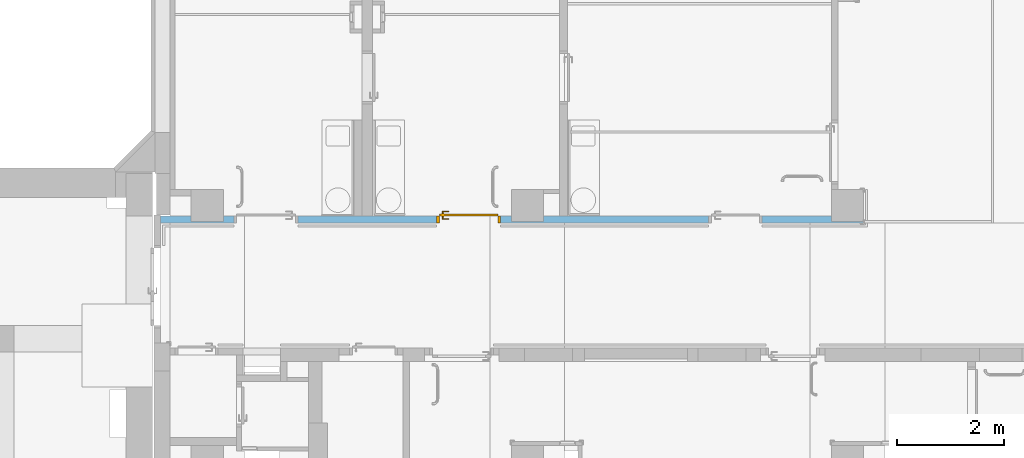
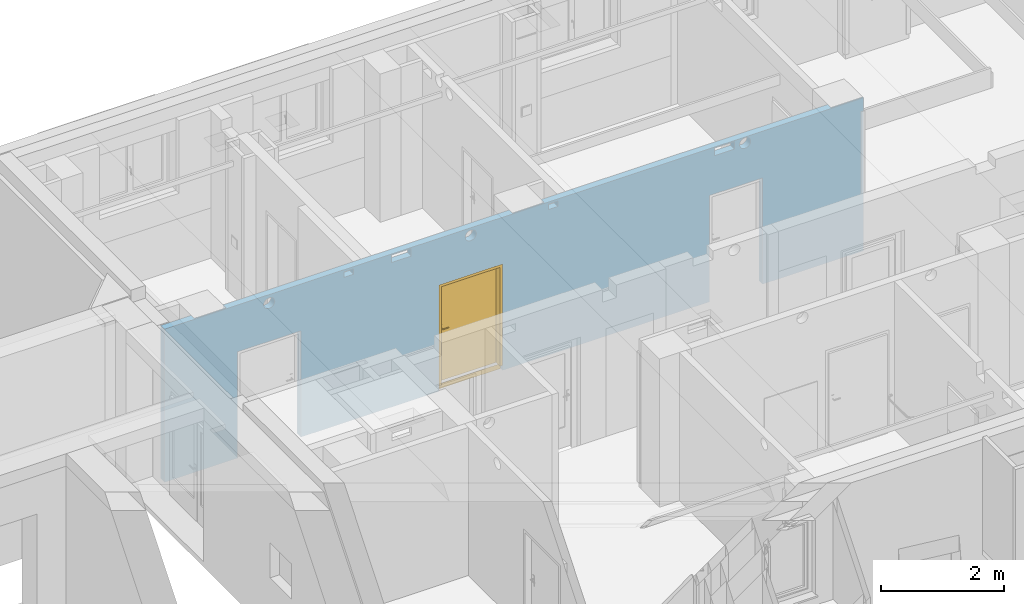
# One storey, part 58 of 84: 1 door, 13 openings, plus 1 element that does not belong to this part.
"""IFC4 building model written with IfcOpenShell, lengths in metres."""

from ifc_helpers import new_model, entity, si_unit, converted_unit, derived_unit, frame, frame_2d, origin, origin_with_axes, place, context, subcontext, project, spatial, polyline, rectangle, outline, extrude, closed_shell, open_shell, surface_model, source, transform, mapped, material, layer, layer_set, layer_usage, type_object, element, fill, save


model = new_model("IFC4")

# Units and contexts
model_context = context("Model", 3, precision=1e-05, world=origin())
body_context = subcontext(model_context, "Body", "Model", "MODEL_VIEW")
ifc_project = project(units=[si_unit("LENGTHUNIT", "METRE"), si_unit("AREAUNIT", "SQUARE_METRE"), si_unit("VOLUMEUNIT", "CUBIC_METRE"), si_unit("MASSUNIT", "GRAM", prefix="KILO"), converted_unit("PLANEANGLEUNIT", "DEGREE", entity("IfcPlaneAngleMeasure", 0.0174532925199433), si_unit("PLANEANGLEUNIT", "RADIAN"), dimensions=[0, 0, 0, 0, 0, 0, 0]), derived_unit("THERMALTRANSMITTANCEUNIT", [(si_unit("POWERUNIT", "WATT"), 1), (si_unit("THERMODYNAMICTEMPERATUREUNIT", "KELVIN"), -1), (si_unit("LENGTHUNIT", "METRE"), -2)]), derived_unit("VOLUMETRICFLOWRATEUNIT", [(si_unit("LENGTHUNIT", "METRE"), 3), (converted_unit("TIMEUNIT", "hour", entity("IfcTimeMeasure", 3600.0), si_unit("TIMEUNIT", "SECOND"), dimensions=[0, 0, 1, 0, 0, 0, 0]), -1), (si_unit("LENGTHUNIT", "METRE"), -1)])], contexts=[model_context])

# Site, building, storey
site_placement = place(None, origin())
site = spatial("IfcSite", under=ifc_project, at=site_placement, Name="3. ASŘ", CompositionType="ELEMENT")
building_placement = place(site_placement, origin())
building = spatial("IfcBuilding", under=site, at=building_placement, Name="Pavilon C", CompositionType="ELEMENT")
storey_placement = place(building_placement, frame((0.0, 0.0, -3.3)))
storey = spatial("IfcBuildingStorey", under=building, at=storey_placement, Name="Půdorys 1.PP", CompositionType="ELEMENT", Elevation=-3.3)

# Wall, openings, door
ifc_material = material(Name="SDK - 1 KCE + DVOJITÉ OPLÁŠTĚNÍ")
ifc_layer = layer(ifc_material, 0.125)
ifc_layer_set = layer_set([ifc_layer])
ifc_layer_usage = layer_usage(ifc_layer_set, "AXIS2", "POSITIVE", 0.0)
wall_placement = place(storey_placement, frame((-0.874999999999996, 9.875, -0.1), z_axis=(0.0, 0.0, 1.0), x_axis=(1.0, -2.76127423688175e-16, 0.0)))
wall = element("IfcWall", 1, at=wall_placement, inside=storey, material=ifc_layer_usage, Name="SDK - 1 KCE + DVOJITÉ OPLÁŠTĚNÍ", context=body_context, shape_type="SweptSolid", body=[
    extrude(rectangle(XDim=13.175, YDim=0.125, at=frame_2d((6.5875, 0.0625), x_axis=(1.0, 0.0))), origin_with_axes(), (0.0, 0.0, 1.0), 3.05),
])
opening_1_placement = place(wall_placement, frame((6.37500000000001, 0.124999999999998, 0.0), z_axis=(0.0, -1.0, 0.0), x_axis=(0.0, 0.0, 1.0)))
opening_1 = element("IfcOpeningElement", 2, at=opening_1_placement, cuts=wall, Name="Dveřní otvor", ObjectType="Opening", context=body_context, shape_type="SweptSolid", body=[
    extrude(outline(polyline([(0.0, 1.2), (2.12, 1.2), (2.12, 0.0), (0.0, 0.0), (0.0, 1.2)])), origin_with_axes(), (0.0, 0.0, 1.0), 0.125),
])
opening_2_placement = place(wall_placement, frame((1.37500000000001, 3.79675207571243e-16, 0.0), z_axis=(0.0, 1.0, 0.0), x_axis=(0.0, 0.0, 1.0)))
element("IfcOpeningElement", 3, at=opening_2_placement, cuts=wall, Name="Dveřní otvor", ObjectType="Opening", context=body_context, shape_type="SweptSolid", body=[
    extrude(outline(polyline([(0.0, 1.2), (2.12, 1.2), (2.12, 0.0), (0.0, 0.0), (0.0, 1.2)])), origin_with_axes(), (0.0, 0.0, 1.0), 0.125),
])
opening_3_placement = place(wall_placement, frame((11.275, 0.124999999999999, 0.0), z_axis=(0.0, -1.0, 0.0), x_axis=(0.0, 0.0, 1.0)))
element("IfcOpeningElement", 4, at=opening_3_placement, cuts=wall, Name="Dveřní otvor", ObjectType="Opening", context=body_context, shape_type="SweptSolid", body=[
    extrude(outline(polyline([(0.0, 1.0), (2.12, 1.0), (2.12, 0.0), (0.0, 0.0), (0.0, 1.0)])), origin_with_axes(), (0.0, 0.0, 1.0), 0.125),
])
opening_4_placement = place(wall_placement, frame((13.175, 0.125, 0.0), z_axis=(0.0, -1.0, 0.0), x_axis=(0.0, 0.0, 1.0)))
element("IfcOpeningElement", 5, at=opening_4_placement, cuts=wall, Name="Prostup stěnou", ObjectType="Opening", context=body_context, shape_type="SweptSolid", body=[
    extrude(outline(polyline([(0.0, 0.6), (3.05, 0.6), (3.05, 0.0), (0.0, 0.0), (0.0, 0.6)])), origin_with_axes(), (0.0, 0.0, 1.0), 0.1),
])
opening_5_placement = place(wall_placement, frame((1.17500000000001, 0.125, 0.0), z_axis=(0.0, -1.0, 0.0), x_axis=(0.0, 0.0, 1.0)))
element("IfcOpeningElement", 6, at=opening_5_placement, cuts=wall, Name="Stěnová nika", ObjectType="Opening", context=body_context, shape_type="SweptSolid", body=[
    extrude(outline(polyline([(0.0, 0.599999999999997), (3.05, 0.599999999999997), (3.05, 0.0), (0.0, 0.0), (0.0, 0.599999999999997)])), origin_with_axes(), (0.0, 0.0, 1.0), 0.100000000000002),
])
opening_6_placement = place(wall_placement, frame((7.17500000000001, 0.125, 0.0), z_axis=(0.0, -1.0, 0.0), x_axis=(0.0, 0.0, 1.0)))
element("IfcOpeningElement", 7, at=opening_6_placement, cuts=wall, Name="Stěnová nika", ObjectType="Opening", context=body_context, shape_type="SweptSolid", body=[
    extrude(outline(polyline([(0.0, 0.6), (3.05, 0.6), (3.05, 0.0), (0.0, 0.0), (0.0, 0.6)])), origin_with_axes(), (0.0, 0.0, 1.0), 0.1),
])
opening_7_placement = place(wall_placement, frame((3.3875, -8.83607755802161e-16, 2.9), z_axis=(0.0, 1.0, 0.0), x_axis=(0.0, 0.0, 1.0)))
element("IfcOpeningElement", 8, at=opening_7_placement, cuts=wall, Name="ZTI", ObjectType="Opening", context=body_context, shape_type="SweptSolid", body=[
    extrude(outline(polyline([(0.0, 0.175), (0.11, 0.175), (0.11, 0.0), (0.0, 0.0), (0.0, 0.175)])), origin_with_axes(), (0.0, 0.0, 1.0), 0.125),
])
opening_8_placement = place(wall_placement, frame((4.28228473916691, 1.18245625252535e-15, 2.88), z_axis=(0.0, 1.0, 0.0), x_axis=(0.0, 0.0, 1.0)))
element("IfcOpeningElement", 9, at=opening_8_placement, cuts=wall, Name="ZTI", ObjectType="Opening", context=body_context, shape_type="SweptSolid", body=[
    extrude(outline(polyline([(0.0, 0.37), (0.15, 0.37), (0.15, 0.0), (0.0, 0.0), (0.0, 0.37)])), origin_with_axes(), (0.0, 0.0, 1.0), 0.125),
])
opening_9_placement = place(wall_placement, frame((7.24, 1.80173143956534e-16, 2.9), z_axis=(0.0, 1.0, 0.0), x_axis=(0.0, 0.0, 1.0)))
element("IfcOpeningElement", 10, at=opening_9_placement, cuts=wall, Name="ZTI", ObjectType="Opening", context=body_context, shape_type="SweptSolid", body=[
    extrude(outline(polyline([(0.0, 0.175), (0.11, 0.175), (0.11, 0.0), (0.0, 0.0), (0.0, 0.175)])), origin_with_axes(), (0.0, 0.0, 1.0), 0.125),
])
opening_10_placement = place(wall_placement, frame((1.87, 5.16358282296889e-16, 2.775), z_axis=(0.0, 1.0, 0.0), x_axis=(0.0, 0.0, 1.0)))
element("IfcOpeningElement", 11, at=opening_10_placement, cuts=wall, Name="VZT", ObjectType="Opening", context=body_context, shape_type="SweptSolid", body=[
    extrude(outline(polyline([(0.105, 0.0), (0.0940245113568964, 0.000575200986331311), (0.0831692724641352, 0.00229450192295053), (0.0725532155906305, 0.0051390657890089), (0.062292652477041, 0.00907772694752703), (0.0525, 0.0140673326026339), (0.0432825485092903, 0.0200532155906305), (0.0347412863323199, 0.0269697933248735), (0.0269697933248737, 0.03474128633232), (0.0200532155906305, 0.0432825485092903), (0.014067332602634, 0.0525), (0.00907772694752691, 0.062292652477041), (0.0051390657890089, 0.0725532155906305), (0.00229450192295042, 0.0831692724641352), (0.000575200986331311, 0.0940245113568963), (0.0, 0.105), (0.000575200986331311, 0.115975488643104), (0.00229450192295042, 0.126830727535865), (0.0051390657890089, 0.137446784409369), (0.00907772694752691, 0.147707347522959), (0.014067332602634, 0.1575), (0.0200532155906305, 0.16671745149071), (0.0269697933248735, 0.17525871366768), (0.0347412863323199, 0.183030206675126), (0.0432825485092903, 0.18994678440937), (0.0525, 0.195932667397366), (0.062292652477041, 0.200922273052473), (0.0725532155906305, 0.204860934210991), (0.0831692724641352, 0.20770549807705), (0.0940245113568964, 0.209424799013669), (0.105, 0.21), (0.115975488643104, 0.209424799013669), (0.126830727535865, 0.20770549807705), (0.137446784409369, 0.204860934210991), (0.147707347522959, 0.200922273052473), (0.1575, 0.195932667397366), (0.16671745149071, 0.18994678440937), (0.17525871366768, 0.183030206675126), (0.183030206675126, 0.17525871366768), (0.189946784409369, 0.16671745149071), (0.195932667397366, 0.1575), (0.200922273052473, 0.147707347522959), (0.204860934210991, 0.137446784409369), (0.20770549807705, 0.126830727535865), (0.209424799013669, 0.115975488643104), (0.21, 0.105), (0.209424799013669, 0.0940245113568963), (0.20770549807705, 0.0831692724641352), (0.204860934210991, 0.0725532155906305), (0.200922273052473, 0.062292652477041), (0.195932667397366, 0.0525), (0.18994678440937, 0.0432825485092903), (0.183030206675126, 0.03474128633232), (0.17525871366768, 0.0269697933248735), (0.16671745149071, 0.0200532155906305), (0.1575, 0.0140673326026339), (0.147707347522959, 0.00907772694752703), (0.13744678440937, 0.0051390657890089), (0.126830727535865, 0.00229450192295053), (0.115975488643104, 0.000575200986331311), (0.105, 0.0)])), origin_with_axes(), (0.0, 0.0, 1.0), 0.125),
])
opening_11_placement = place(wall_placement, frame((5.67000000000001, -2.07233631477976e-15, 2.795), z_axis=(0.0, 1.0, 0.0), x_axis=(0.0, 0.0, 1.0)))
element("IfcOpeningElement", 12, at=opening_11_placement, cuts=wall, Name="VZT", ObjectType="Opening", context=body_context, shape_type="SweptSolid", body=[
    extrude(outline(polyline([(0.105, 0.0), (0.0940245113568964, 0.000575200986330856), (0.0831692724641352, 0.00229450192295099), (0.0725532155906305, 0.00513906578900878), (0.062292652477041, 0.00907772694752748), (0.0525, 0.0140673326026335), (0.0432825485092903, 0.0200532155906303), (0.0347412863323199, 0.0269697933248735), (0.0269697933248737, 0.0347412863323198), (0.0200532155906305, 0.0432825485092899), (0.014067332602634, 0.0525), (0.00907772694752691, 0.062292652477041), (0.0051390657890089, 0.0725532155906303), (0.00229450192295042, 0.0831692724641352), (0.000575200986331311, 0.0940245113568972), (0.0, 0.105), (0.000575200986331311, 0.115975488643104), (0.00229450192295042, 0.126830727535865), (0.0051390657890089, 0.13744678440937), (0.00907772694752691, 0.147707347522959), (0.014067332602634, 0.1575), (0.0200532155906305, 0.16671745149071), (0.0269697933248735, 0.17525871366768), (0.0347412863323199, 0.183030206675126), (0.0432825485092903, 0.18994678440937), (0.0525, 0.195932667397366), (0.062292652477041, 0.200922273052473), (0.0725532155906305, 0.204860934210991), (0.0831692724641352, 0.207705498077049), (0.0940245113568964, 0.209424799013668), (0.105, 0.21), (0.115975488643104, 0.209424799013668), (0.126830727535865, 0.207705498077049), (0.137446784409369, 0.204860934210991), (0.147707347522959, 0.200922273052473), (0.1575, 0.195932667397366), (0.16671745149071, 0.18994678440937), (0.17525871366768, 0.183030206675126), (0.183030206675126, 0.17525871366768), (0.189946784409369, 0.16671745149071), (0.195932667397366, 0.1575), (0.200922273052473, 0.147707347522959), (0.204860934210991, 0.13744678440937), (0.20770549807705, 0.126830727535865), (0.209424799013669, 0.115975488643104), (0.21, 0.105), (0.209424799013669, 0.0940245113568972), (0.20770549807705, 0.0831692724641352), (0.204860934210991, 0.0725532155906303), (0.200922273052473, 0.062292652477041), (0.195932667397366, 0.0525), (0.18994678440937, 0.0432825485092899), (0.183030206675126, 0.0347412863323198), (0.17525871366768, 0.0269697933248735), (0.16671745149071, 0.0200532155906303), (0.1575, 0.0140673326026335), (0.147707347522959, 0.00907772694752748), (0.13744678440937, 0.00513906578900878), (0.126830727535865, 0.00229450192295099), (0.115975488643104, 0.000575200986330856), (0.105, 0.0)])), origin_with_axes(), (0.0, 0.0, 1.0), 0.125),
])
opening_12_placement = place(wall_placement, frame((10.3703699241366, -7.74435277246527e-16, 2.88), z_axis=(0.0, 1.0, 0.0), x_axis=(0.0, 0.0, 1.0)))
element("IfcOpeningElement", 13, at=opening_12_placement, cuts=wall, Name="ZTI", ObjectType="Opening", context=body_context, shape_type="SweptSolid", body=[
    extrude(outline(polyline([(0.0, 0.37), (0.15, 0.37), (0.15, 0.0), (0.0, 0.0), (0.0, 0.37)])), origin_with_axes(), (0.0, 0.0, 1.0), 0.125),
])
opening_13_placement = place(wall_placement, frame((10.8403699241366, -6.44655388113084e-16, 2.825), z_axis=(0.0, 1.0, 0.0), x_axis=(0.0, 0.0, 1.0)))
element("IfcOpeningElement", 14, at=opening_13_placement, cuts=wall, Name="VZT", ObjectType="Opening", context=body_context, shape_type="SweptSolid", body=[
    extrude(outline(polyline([(0.105, 0.0), (0.0940245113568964, 0.000575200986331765), (0.0831692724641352, 0.0022945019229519), (0.0725532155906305, 0.00513906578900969), (0.062292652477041, 0.00907772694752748), (0.0525, 0.0140673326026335), (0.0432825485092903, 0.0200532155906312), (0.0347412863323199, 0.0269697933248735), (0.0269697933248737, 0.0347412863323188), (0.0200532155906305, 0.0432825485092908), (0.014067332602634, 0.0524999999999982), (0.00907772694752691, 0.062292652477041), (0.0051390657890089, 0.0725532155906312), (0.00229450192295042, 0.0831692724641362), (0.000575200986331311, 0.0940245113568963), (0.0, 0.105), (0.000575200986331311, 0.115975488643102), (0.00229450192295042, 0.126830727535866), (0.0051390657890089, 0.137446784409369), (0.00907772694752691, 0.147707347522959), (0.014067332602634, 0.1575), (0.0200532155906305, 0.166717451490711), (0.0269697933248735, 0.175258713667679), (0.0347412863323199, 0.183030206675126), (0.0432825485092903, 0.189946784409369), (0.0525, 0.195932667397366), (0.062292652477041, 0.200922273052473), (0.0725532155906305, 0.20486093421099), (0.0831692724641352, 0.20770549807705), (0.0940245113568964, 0.209424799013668), (0.105, 0.21), (0.115975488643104, 0.209424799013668), (0.126830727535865, 0.20770549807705), (0.137446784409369, 0.20486093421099), (0.147707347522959, 0.200922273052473), (0.1575, 0.195932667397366), (0.16671745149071, 0.189946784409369), (0.17525871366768, 0.183030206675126), (0.183030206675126, 0.175258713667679), (0.189946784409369, 0.166717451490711), (0.195932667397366, 0.1575), (0.200922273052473, 0.147707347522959), (0.204860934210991, 0.137446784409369), (0.20770549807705, 0.126830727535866), (0.209424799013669, 0.115975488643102), (0.21, 0.105), (0.209424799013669, 0.0940245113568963), (0.20770549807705, 0.0831692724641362), (0.204860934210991, 0.0725532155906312), (0.200922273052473, 0.062292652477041), (0.195932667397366, 0.0524999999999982), (0.18994678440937, 0.0432825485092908), (0.183030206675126, 0.0347412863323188), (0.17525871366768, 0.0269697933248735), (0.16671745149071, 0.0200532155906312), (0.1575, 0.0140673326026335), (0.147707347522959, 0.00907772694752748), (0.13744678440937, 0.00513906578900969), (0.126830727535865, 0.0022945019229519), (0.115975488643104, 0.000575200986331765), (0.105, 0.0)])), origin_with_axes(), (0.0, 0.0, 1.0), 0.125),
])
door_type = type_object("IfcDoorType", Name="I.D004", OperationType="NOTDEFINED", ParameterTakesPrecedence=False, PredefinedType="DOOR")
shared_shape = source(origin_with_axes(), body_context, "Body", "SurfaceModel", [
    surface_model("IfcShellBasedSurfaceModel", [(0.0, 0.0625, 0.0), (1.2, 0.0625, 0.0), (1.2, 0.0625, 0.1), (0.0, 0.0625, 0.1)], [open_shell([[[0, 1, 2, 3]]], orient=[[False]])]),
    surface_model("IfcShellBasedSurfaceModel", [(0.0, 0.125, 2.12), (0.0, 0.125, 0.101), (0.05, 0.125, 0.101), (0.05, 0.125, 2.12), (0.0, 0.0, 0.101), (0.0, 2.41584530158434e-16, 2.12), (0.05, 2.41584530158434e-16, 2.12), (0.05, 0.0, 0.101)], [closed_shell([[[0, 1, 2, 3]], [[4, 5, 6, 7]], [[1, 0, 5, 4]], [[2, 1, 4, 7]], [[3, 2, 7, 6]], [[0, 3, 6, 5]]], orient=[[False], [False], [False], [False], [False], [False]])]),
    surface_model("IfcShellBasedSurfaceModel", [(1.15, 0.125, 2.12), (1.15, 0.125, 0.101), (1.2, 0.125, 0.101), (1.2, 0.125, 2.12), (1.15, 0.0, 0.101), (1.15, 2.41584530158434e-16, 2.12), (1.2, 2.41584530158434e-16, 2.12), (1.2, 0.0, 0.101)], [closed_shell([[[0, 1, 2, 3]], [[4, 5, 6, 7]], [[1, 0, 5, 4]], [[2, 1, 4, 7]], [[3, 2, 7, 6]], [[0, 3, 6, 5]]], orient=[[False], [False], [False], [False], [False], [False]])]),
    surface_model("IfcShellBasedSurfaceModel", [(0.05, 0.125, 2.12), (0.05, 0.125, 2.07), (1.15, 0.125, 2.07), (1.15, 0.125, 2.12), (0.05, 2.41584530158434e-16, 2.07), (0.05, 2.41584530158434e-16, 2.12), (1.15, 2.41584530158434e-16, 2.12), (1.15, 2.41584530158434e-16, 2.07)], [closed_shell([[[0, 1, 2, 3]], [[4, 5, 6, 7]], [[1, 0, 5, 4]], [[2, 1, 4, 7]], [[3, 2, 7, 6]], [[0, 3, 6, 5]]], orient=[[False], [False], [False], [False], [False], [False]])]),
    surface_model("IfcShellBasedSurfaceModel", [(0.05, 0.165, 2.07), (0.05, 0.165, 0.101), (1.15, 0.165, 0.101), (1.15, 0.165, 2.07), (0.05, 0.125, 0.101), (0.05, 0.125, 2.07), (1.15, 0.125, 2.07), (1.15, 0.125, 0.101)], [closed_shell([[[0, 1, 2, 3]], [[4, 5, 6, 7]], [[1, 0, 5, 4]], [[2, 1, 4, 7]], [[3, 2, 7, 6]], [[0, 3, 6, 5]]], orient=[[False], [False], [False], [False], [False], [False]])]),
    surface_model("IfcShellBasedSurfaceModel", [(0.09, 0.125, 1.226), (0.09, 0.125, 1.011), (0.14, 0.125, 1.011), (0.14, 0.125, 1.226), (0.09, 0.115, 1.011), (0.09, 0.115, 1.226), (0.14, 0.115, 1.226), (0.14, 0.115, 1.011)], [closed_shell([[[0, 1, 2, 3]], [[4, 5, 6, 7]], [[1, 0, 5, 4]], [[2, 1, 4, 7]], [[3, 2, 7, 6]], [[0, 3, 6, 5]]], orient=[[False], [False], [False], [False], [False], [False]])]),
    surface_model("IfcShellBasedSurfaceModel", [(0.115, 0.115, 1.161), (0.11, 0.115, 1.15966025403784), (0.106339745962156, 0.115, 1.156), (0.105, 0.115, 1.151), (0.106339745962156, 0.115, 1.146), (0.11, 0.115, 1.14233974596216), (0.115, 0.115, 1.141), (0.12, 0.115, 1.14233974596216), (0.123660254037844, 0.115, 1.146), (0.125, 0.115, 1.151), (0.123660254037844, 0.115, 1.156), (0.12, 0.115, 1.15966025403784), (0.115, 0.0750000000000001, 1.161), (0.11, 0.0700000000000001, 1.15966025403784), (0.106339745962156, 0.0663397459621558, 1.156), (0.105, 0.0650000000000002, 1.151), (0.106339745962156, 0.0663397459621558, 1.146), (0.11, 0.0700000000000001, 1.14233974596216), (0.115, 0.0750000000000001, 1.141), (0.12, 0.0800000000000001, 1.14233974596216), (0.123660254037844, 0.0836602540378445, 1.146), (0.125, 0.0850000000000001, 1.151), (0.123660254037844, 0.0836602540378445, 1.156), (0.12, 0.0800000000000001, 1.15966025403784), (0.23, 0.0750000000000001, 1.161), (0.23, 0.0700000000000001, 1.15966025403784), (0.23, 0.0663397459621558, 1.156), (0.23, 0.0650000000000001, 1.151), (0.23, 0.0663397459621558, 1.146), (0.23, 0.0700000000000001, 1.14233974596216), (0.23, 0.0750000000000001, 1.141), (0.23, 0.0800000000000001, 1.14233974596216), (0.23, 0.0836602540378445, 1.146), (0.23, 0.0850000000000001, 1.151), (0.23, 0.0836602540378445, 1.156), (0.23, 0.0800000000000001, 1.15966025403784)], [open_shell([[[0, 1, 2, 3, 4, 5, 6, 7, 8, 9, 10, 11]], [[0, 12, 13, 1]], [[1, 13, 14, 2]], [[2, 14, 15, 3]], [[3, 15, 16, 4]], [[4, 16, 17, 5]], [[5, 17, 18, 6]], [[6, 18, 19, 7]], [[7, 19, 20, 8]], [[8, 20, 21, 9]], [[9, 21, 22, 10]], [[10, 22, 23, 11]], [[11, 23, 12, 0]], [[12, 24, 25, 13]], [[13, 25, 26, 14]], [[14, 26, 27, 15]], [[15, 27, 28, 16]], [[16, 28, 29, 17]], [[17, 29, 30, 18]], [[18, 30, 31, 19]], [[19, 31, 32, 20]], [[20, 32, 33, 21]], [[21, 33, 34, 22]], [[22, 34, 35, 23]], [[23, 35, 24, 12]]], orient=[[False], [False], [False], [False], [False], [False], [False], [False], [False], [False], [False], [False], [False], [False], [False], [False], [False], [False], [False], [False], [False], [False], [False], [False], [False]])]),
    surface_model("IfcShellBasedSurfaceModel", [(0.09, 0.165, 1.226), (0.14, 0.165, 1.226), (0.14, 0.165, 1.011), (0.09, 0.165, 1.011), (0.09, 0.175, 1.011), (0.14, 0.175, 1.011), (0.14, 0.175, 1.226), (0.09, 0.175, 1.226)], [closed_shell([[[0, 1, 2, 3]], [[4, 5, 6, 7]], [[3, 4, 7, 0]], [[2, 5, 4, 3]], [[1, 6, 5, 2]], [[0, 7, 6, 1]]], orient=[[False], [False], [False], [False], [False], [False]])]),
    surface_model("IfcShellBasedSurfaceModel", [(0.115, 0.175, 1.161), (0.12, 0.175, 1.15966025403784), (0.123660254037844, 0.175, 1.156), (0.125, 0.175, 1.151), (0.123660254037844, 0.175, 1.146), (0.12, 0.175, 1.14233974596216), (0.115, 0.175, 1.141), (0.11, 0.175, 1.14233974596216), (0.106339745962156, 0.175, 1.146), (0.105, 0.175, 1.151), (0.106339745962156, 0.175, 1.156), (0.11, 0.175, 1.15966025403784), (0.11, 0.22, 1.15966025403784), (0.115, 0.215, 1.161), (0.106339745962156, 0.223660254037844, 1.156), (0.105, 0.225, 1.151), (0.106339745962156, 0.223660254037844, 1.146), (0.11, 0.22, 1.14233974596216), (0.115, 0.215, 1.141), (0.12, 0.21, 1.14233974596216), (0.123660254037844, 0.206339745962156, 1.146), (0.125, 0.205, 1.151), (0.123660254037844, 0.206339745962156, 1.156), (0.12, 0.21, 1.15966025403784), (0.23, 0.22, 1.15966025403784), (0.23, 0.215, 1.161), (0.23, 0.223660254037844, 1.156), (0.23, 0.225, 1.151), (0.23, 0.223660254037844, 1.146), (0.23, 0.22, 1.14233974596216), (0.23, 0.215, 1.141), (0.23, 0.21, 1.14233974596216), (0.23, 0.206339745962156, 1.146), (0.23, 0.205, 1.151), (0.23, 0.206339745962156, 1.156), (0.23, 0.21, 1.15966025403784)], [open_shell([[[0, 1, 2, 3, 4, 5, 6, 7, 8, 9, 10, 11]], [[0, 11, 12, 13]], [[11, 10, 14, 12]], [[10, 9, 15, 14]], [[9, 8, 16, 15]], [[8, 7, 17, 16]], [[7, 6, 18, 17]], [[6, 5, 19, 18]], [[5, 4, 20, 19]], [[4, 3, 21, 20]], [[3, 2, 22, 21]], [[2, 1, 23, 22]], [[1, 0, 13, 23]], [[13, 12, 24, 25]], [[12, 14, 26, 24]], [[14, 15, 27, 26]], [[15, 16, 28, 27]], [[16, 17, 29, 28]], [[17, 18, 30, 29]], [[18, 19, 31, 30]], [[19, 20, 32, 31]], [[20, 21, 33, 32]], [[21, 22, 34, 33]], [[22, 23, 35, 34]], [[23, 13, 25, 35]]], orient=[[False], [False], [False], [False], [False], [False], [False], [False], [False], [False], [False], [False], [False], [False], [False], [False], [False], [False], [False], [False], [False], [False], [False], [False], [False]])]),
])
door_placement = place(opening_1_placement, frame((0.0, 1.2, 0.125), z_axis=(1.0, 0.0, 0.0), x_axis=(0.0, -1.0, -3.11980638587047e-17)))
door = element("IfcDoor", 15, at=door_placement, inside=storey, type_object=door_type, Name="I.D004", OverallHeight=2.12, OverallWidth=1.2, context=body_context, shape_type="MappedRepresentation", body=[
    mapped(shared_shape, transform((0.0, 0.0, 0.0), x_axis=(1.0, 0.0, 0.0), y_axis=(0.0, 1.0, 0.0), z_axis=(0.0, 0.0, 1.0), scale=1.0)),
])
fill(opening_1, door)

save(model, "model.ifc")
